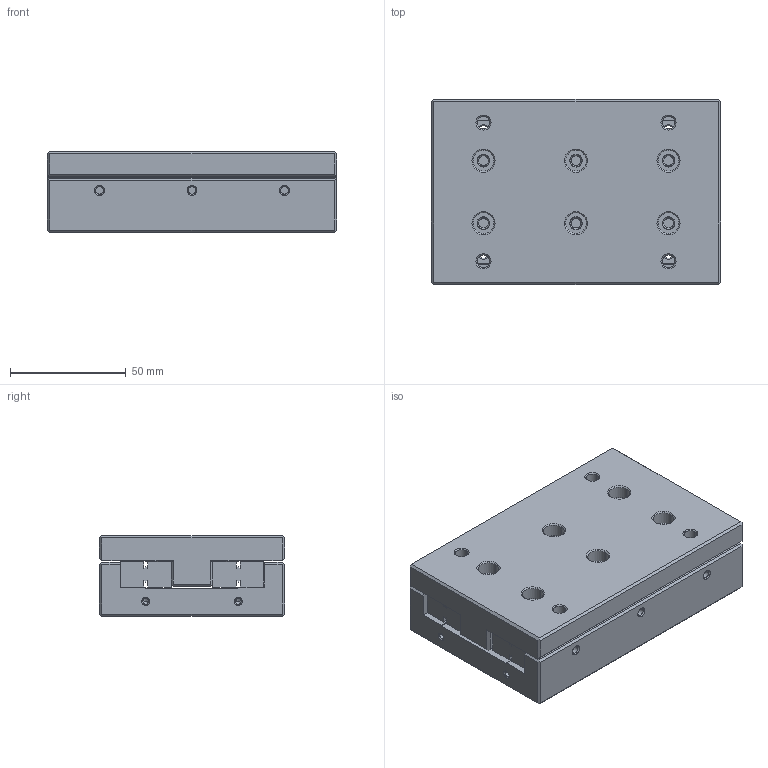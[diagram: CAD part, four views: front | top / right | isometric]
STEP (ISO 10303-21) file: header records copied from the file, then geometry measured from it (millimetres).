
FILE_DESCRIPTION(/* description */ (''),/* implementation_level */ '2;1');
FILE_NAME(/* name */ 'cru4125_stp.stp',/* time_stamp */ '2017-02-28T09:13:39+08:00',/* author */ (''),/* organization */ (''),/* preprocessor_version */ 'ST-DEVELOPER v15',/* originating_system */ 'SIEMENS PLM Software NX 8.5',/* authorisation */ '');
FILE_SCHEMA (('AUTOMOTIVE_DESIGN { 1 0 10303 214 3 1 1 1 }'));
Length unit declared in the file: millimetre
Products named in the file (4): CRU4125-02; CRU4125-GV4120; CRU4125-01; cru4125_stp
Assembly tree (4 placements, depth 2):
  cru4125_stp
    CRU4125-01
    CRU4125-GV4120  x2
    CRU4125-02
Bounding box: 125 x 80 x 35 mm (x, y, z)
Volume: 320503.6 mm3; surface area: 85317.1 mm2
Topology: 4 solids, 4 shells, 441 faces, 1048 edges, 635 vertices
Faces by surface type: cone 166, cylinder 142, plane 133
Entity records: 10954 total; most frequent: CARTESIAN_POINT 2145, DIRECTION 1882, ORIENTED_EDGE 1752, EDGE_CURVE 876, AXIS2_PLACEMENT_3D 748, VERTEX_POINT 535, EDGE_LOOP 457, LINE 386
